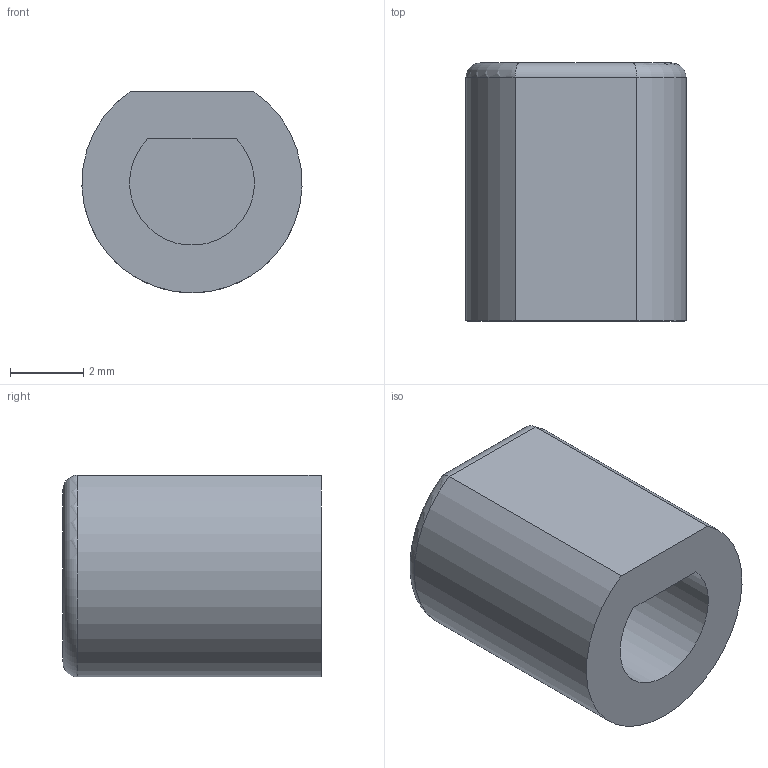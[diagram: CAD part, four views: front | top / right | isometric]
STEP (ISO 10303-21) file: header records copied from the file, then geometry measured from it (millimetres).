
FILE_DESCRIPTION(('Open CASCADE Model'),'2;1');
FILE_NAME('Open CASCADE Shape Model','2026-11-09T05:25:46',('Author'),( 'Open CASCADE'),'Open CASCADE STEP processor 8.0','build123d', 'Unknown');
FILE_SCHEMA(('AUTOMOTIVE_DESIGN { 1 0 10303 214 1 1 1 1 }'));
Length unit declared in the file: millimetre
Products named in the file (1): COMPOUND
Bounding box: 6 x 7.03 x 5.5 mm (x, y, z)
Volume: 142.6 mm3; surface area: 242.3 mm2
Topology: 1 solids, 1 shells, 9 faces, 16 edges, 10 vertices
Faces by surface type: plane 5, cylinder 3, torus 1
Entity records: 480 total; most frequent: CARTESIAN_POINT 154, DIRECTION 52, ORIENTED_EDGE 32, PCURVE 32, DEFINITIONAL_REPRESENTATION 32, B_SPLINE_CURVE_WITH_KNOTS 20, LINE 19, VECTOR 19
